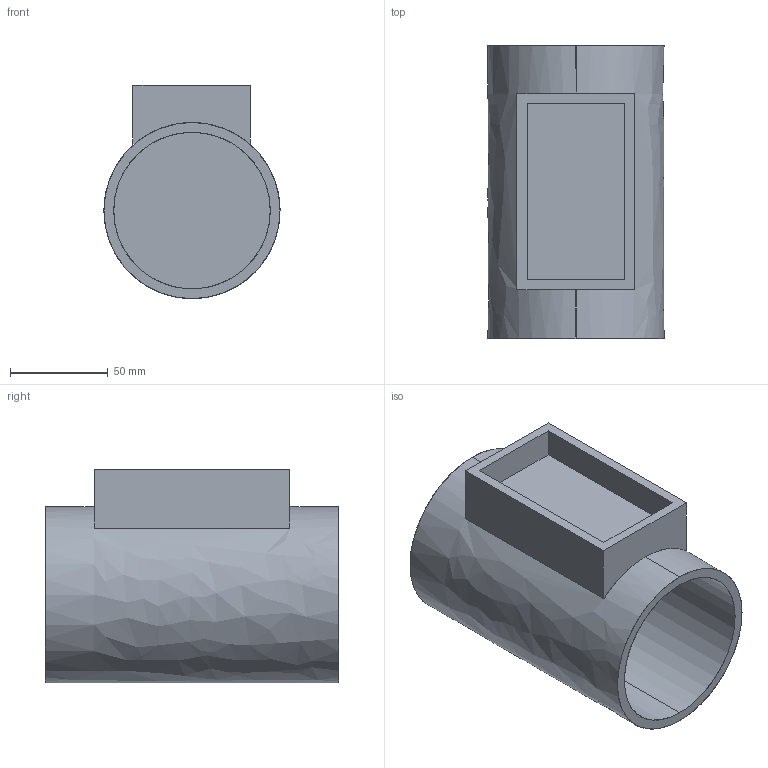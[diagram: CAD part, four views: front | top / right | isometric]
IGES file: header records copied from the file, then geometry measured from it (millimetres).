
Start section: SolidWorks IGES file using analytic representation for surfaces
Global section: file name: W:\Aromas\Aplique cerámico\Aplique.IGS; native system: SolidWorks 2021; preprocessor: SolidWorks 2021; author: PAMAGON; date: 220628.131611; units: millimetre
Bounding box: 90 x 150 x 109 mm (x, y, z)
Surface area: 104154.3 mm2 (no closed solid volume)
Topology: 0 solids, 0 shells, 19 faces, 366 edges, 366 vertices
Faces by surface type: bspline 15, revolution 4
